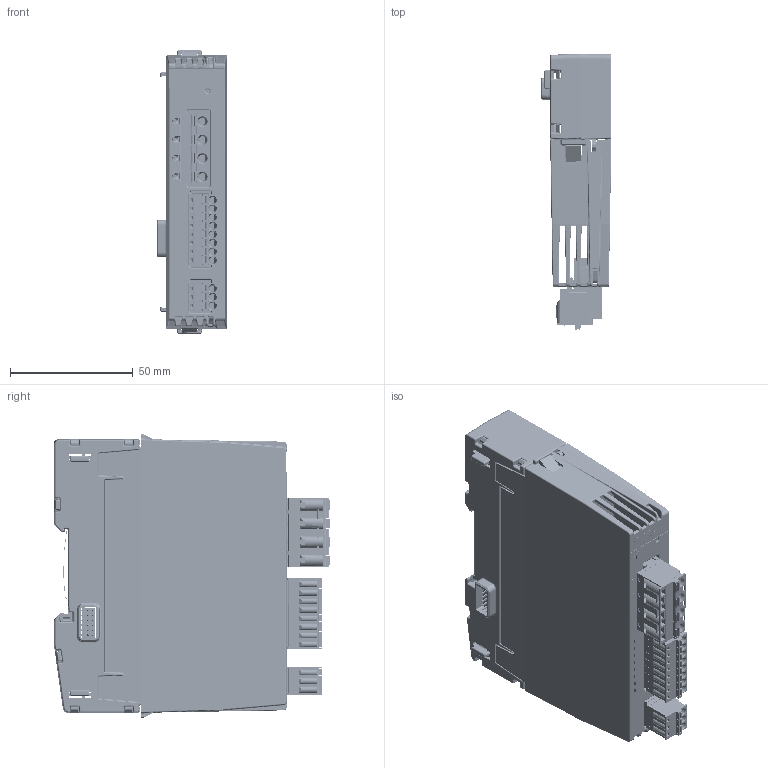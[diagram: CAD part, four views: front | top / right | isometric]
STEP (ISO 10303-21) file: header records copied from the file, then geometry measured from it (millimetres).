
FILE_DESCRIPTION(/* description */ (''),/* implementation_level */ '2;1');
FILE_NAME(/* name */ 'C:\Users\Public\Documents\Autodesk\Inventor 2023\PML4A_Simplified+BackBB21B.stp',/* time_stamp */ '2024-10-18T22:49:56+02:00',/* author */ ('shoma'),/* organization */ (''),/* preprocessor_version */ 'ST-DEVELOPER v19',/* originating_system */ 'Autodesk Inventor 2023',/* authorisation */ '');
FILE_SCHEMA (('AUTOMOTIVE_DESIGN { 1 0 10303 214 3 1 1 }'));
Products named in the file (1): PML4A_Simplified+BackBB21B
Bounding box: 28.9 x 112.6 x 115.5 mm (x, y, z)
Volume: 134090.4 mm3; surface area: 87889.4 mm2
Topology: 8 solids, 41 shells, 8243 faces, 22025 edges, 13845 vertices
Faces by surface type: plane 5323, cylinder 2059, bspline 517, sphere 163, cone 135, torus 46
Full cylindrical faces by diameter (mm): 0.296 x2, 0.3 x36, 0.434 x1, 0.457 x2, 0.7 x36, 0.8 x6, 0.85 x24, 0.9 x8, 1.17 x11, 1.25 x11, 1.3 x11, 1.4 x8, 1.5 x4, 1.6 x9, 2.35 x2, 2.5 x1, 2.8 x3, 3 x5, 3.1 x11, 3.25 x2, 4 x4
Entity records: 279143 total; most frequent: CARTESIAN_POINT 64895, ORIENTED_EDGE 43704, DIRECTION 41706, EDGE_CURVE 21852, LINE 15950, VECTOR 15950, VERTEX_POINT 13841, AXIS2_PLACEMENT_3D 12878
